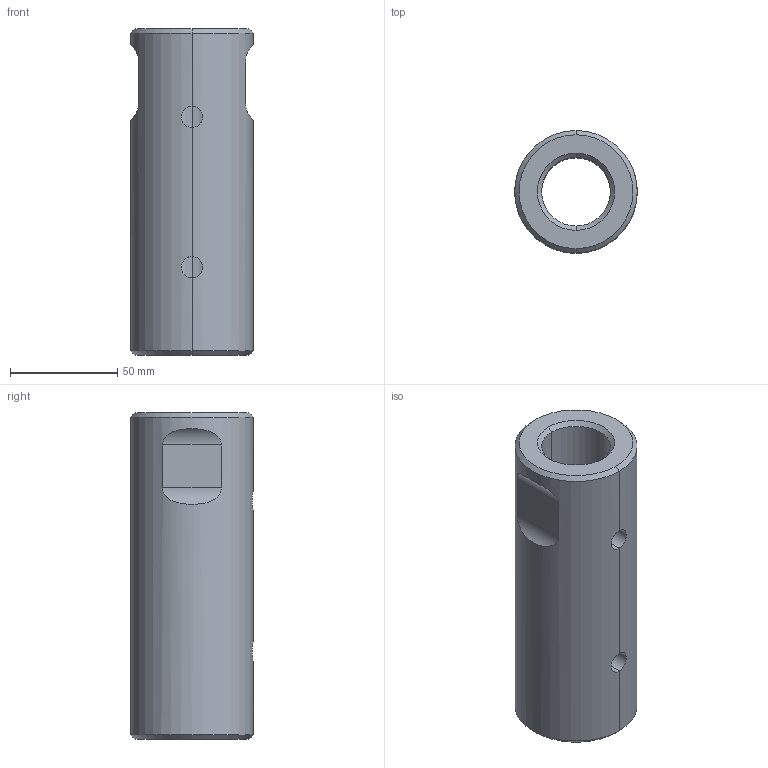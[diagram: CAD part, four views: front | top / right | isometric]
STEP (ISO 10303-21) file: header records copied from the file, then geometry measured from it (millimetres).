
FILE_DESCRIPTION (( 'STEP AP203' ), '1' );
FILE_NAME ('Spannschloss M36.STEP', '2018-02-22T10:00:49', ( 'install' ), ( 'Hewlett-Packard Company' ), 'SwSTEP 2.0', 'SolidWorks 2017', '' );
FILE_SCHEMA (( 'CONFIG_CONTROL_DESIGN' ));
Length unit declared in the file: millimetre
Products named in the file (1): Spannschloss M36
Bounding box: 57 x 57 x 152 mm (x, y, z)
Volume: 232805 mm3; surface area: 47792.7 mm2
Topology: 1 solids, 1 shells, 30 faces, 66 edges, 38 vertices
Faces by surface type: cylinder 16, cone 8, plane 6
Entity records: 1371 total; most frequent: CARTESIAN_POINT 631, DIRECTION 140, ORIENTED_EDGE 132, EDGE_CURVE 66, AXIS2_PLACEMENT_3D 55, VERTEX_POINT 38, EDGE_LOOP 36, VECTOR 30
